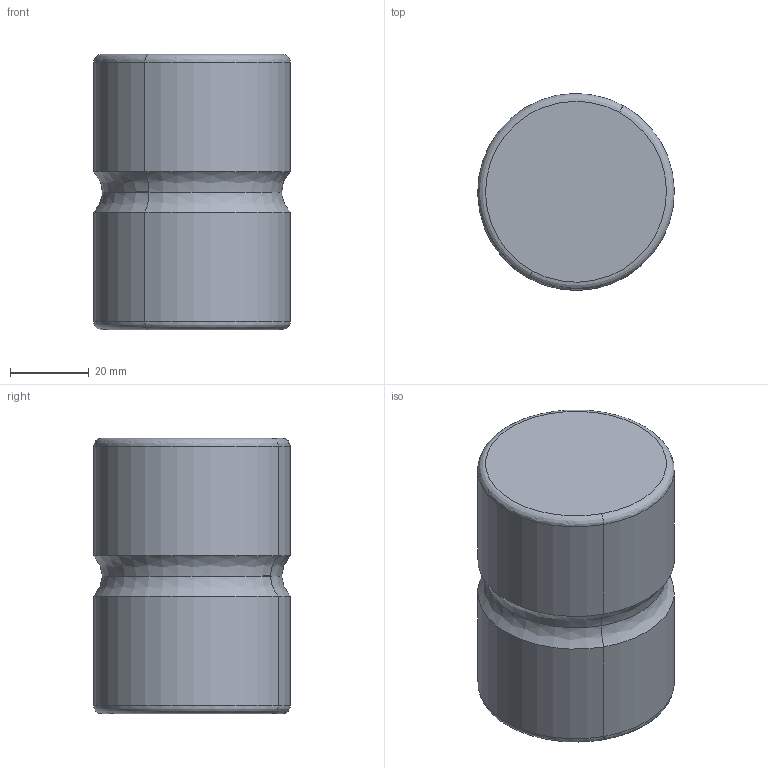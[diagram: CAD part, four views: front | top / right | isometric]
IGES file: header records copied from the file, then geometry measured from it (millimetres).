
Start section: START RECORD GO HERE.
Global section: file name: A519-50.igs; native system: DASSAULT SYSTEMES CATIA V5 R20 - www.3ds.com; preprocessor: CATIA Version 5 Release 20 ; author: Utente; organization: NB04-ASUS; date: 20211130.120841; units: millimetre
Bounding box: 49.99 x 49.99 x 70 mm (x, y, z)
Surface area: 14737.4 mm2 (no closed solid volume)
Topology: 0 solids, 0 shells, 14 faces, 52 edges, 52 vertices
Faces by surface type: revolution 12, plane 2
